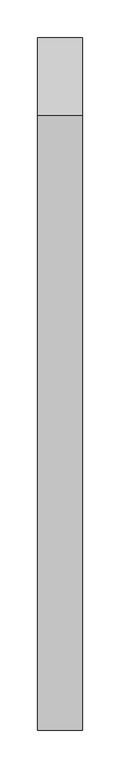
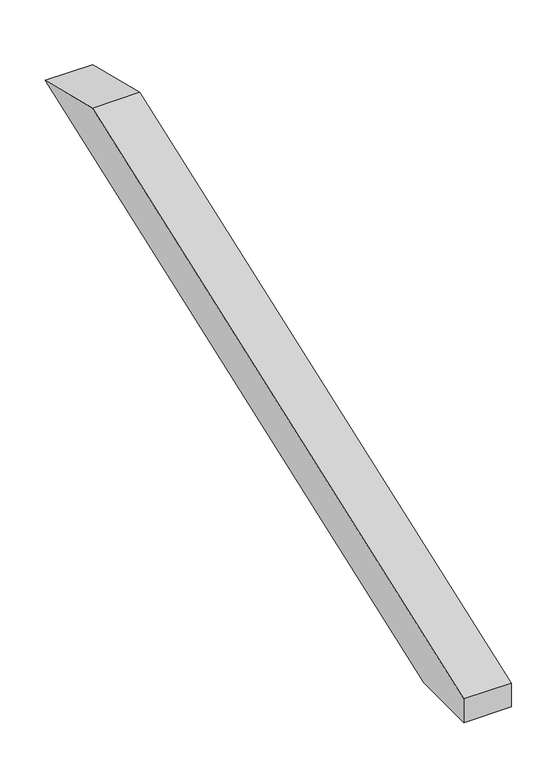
"""IFC4 building model written with IfcOpenShell, lengths in millimetres: proxy geometry, Modelos genéricos 38 : Modelos genéricos 14."""

from ifc_helpers import new_model, si_unit, frame, origin, place, context, project, spatial, polyline, outline, extrude, source, transform, mapped, element, save


def generic_models_99e8bb6b(model_context):
    return source(origin(), model_context, "Body", "SweptSolid", [
        extrude(outline(polyline([(4380.24101, 3463.5158927), (3546.3379485, 3160.0), (3458.6238165, 3160.0), (3458.6238165, 3191.9253332), (4276.1307053, 3489.473507), (4380.24101, 3463.5158927)])), frame((-9026.5527533, 0.0, 0.0), z_axis=(1.0, 0.0, 0.0), x_axis=(0.0, 1.0, 0.0)), (0.0, 0.0, 1.0), 60.0),
    ])


if __name__ == "__main__":
    model = new_model("IFC4")
    model_context = context("Model", 3, world=origin())
    ifc_project = project(units=[si_unit("LENGTHUNIT", "METRE", prefix="MILLI")], contexts=[model_context])
    site = spatial("IfcSite", under=ifc_project)
    building = spatial("IfcBuilding", under=site)
    placement = place(None, origin())
    generic_models_shape = generic_models_99e8bb6b(model_context)
    element("IfcBuildingElementProxy", 1, Name="Modelos genéricos 38 : Modelos genéricos 14", ObjectType="Modelos genéricos 38 : Modelos genéricos 14", at=placement, inside=building, context=model_context, shape_type="MappedRepresentation", body=[
        mapped(generic_models_shape, transform((0.0, 0.0, 0.0), x_axis=(1.0, 0.0, 0.0), y_axis=(0.0, 1.0, 0.0), z_axis=(0.0, 0.0, 1.0))),
    ])
    save(model, "model.ifc")
